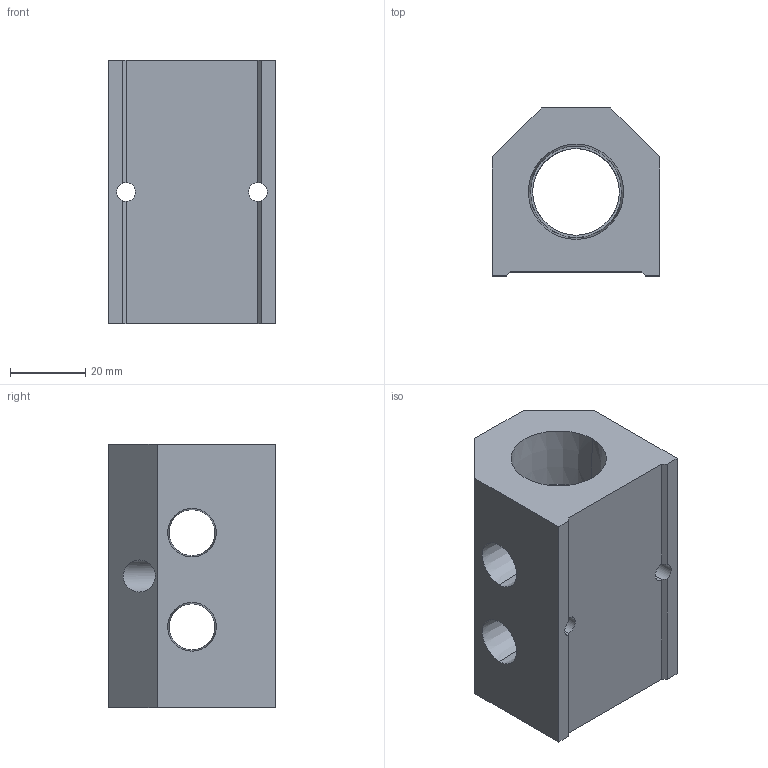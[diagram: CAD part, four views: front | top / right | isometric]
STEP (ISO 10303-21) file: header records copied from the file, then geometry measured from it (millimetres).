
FILE_DESCRIPTION (( 'STEP AP214' ), '1' );
FILE_NAME ('ALM2ACE-N4N12-70R.step', '2022-02-06T14:05:57', ( '' ), ( '' ), 'SwSTEP 2.0', 'SolidWorks 2020', '' );
FILE_SCHEMA (( 'AUTOMOTIVE_DESIGN' ));
Length unit declared in the file: millimetre
Products named in the file (1): ALM2ACE-N4N12-70R
Bounding box: 44.5 x 44.5 x 70 mm (x, y, z)
Volume: 82856.1 mm3; surface area: 21638.3 mm2
Topology: 1 solids, 1 shells, 287 faces, 774 edges, 512 vertices
Faces by surface type: plane 209, bspline 41, cone 22, cylinder 15
Entity records: 15086 total; most frequent: CARTESIAN_POINT 5515, ORIENTED_EDGE 1548, DIRECTION 1180, EDGE_CURVE 774, LINE 586, VECTOR 586, VERTEX_POINT 512, EDGE_LOOP 328
